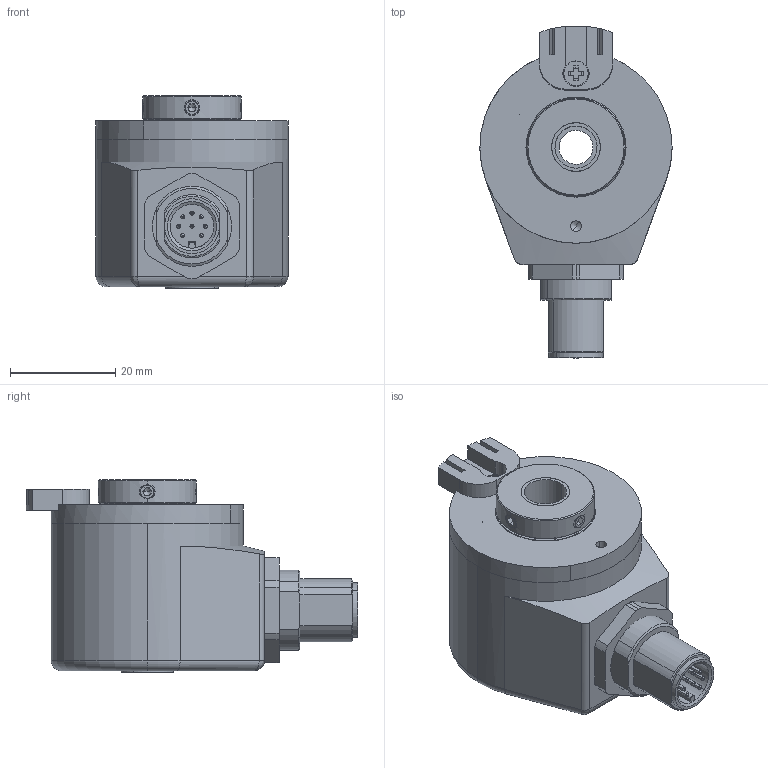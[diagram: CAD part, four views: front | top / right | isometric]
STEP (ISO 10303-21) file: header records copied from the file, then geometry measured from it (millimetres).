
FILE_DESCRIPTION (( 'STEP AP214' ), '1' );
FILE_NAME ('Step BG-36-H-08-XX-XXXX-X-1-XX-V025.STEP', '2013-11-28T15:29:20', ( 'IST GmbH' ), ( '' ), 'SwSTEP 2.0', 'SolidWorks 2009', '' );
FILE_SCHEMA (( 'AUTOMOTIVE_DESIGN' ));
Length unit declared in the file: millimetre
Products named in the file (1): Step BG-36-H-08-XX-XXXX-X-1-XX-V025
Bounding box: 36.5 x 62.99 x 36.5 mm (x, y, z)
Volume: 21797.4 mm3; surface area: 21494.7 mm2
Topology: 16 solids, 16 shells, 614 faces, 1458 edges, 904 vertices
Faces by surface type: plane 227, cylinder 215, cone 101, torus 48, bspline 23
Entity records: 26118 total; most frequent: CARTESIAN_POINT 4898, DIRECTION 3134, ORIENTED_EDGE 2872, EDGE_CURVE 1436, AXIS2_PLACEMENT_3D 1246, VERTEX_POINT 904, EDGE_LOOP 694, CIRCLE 654
